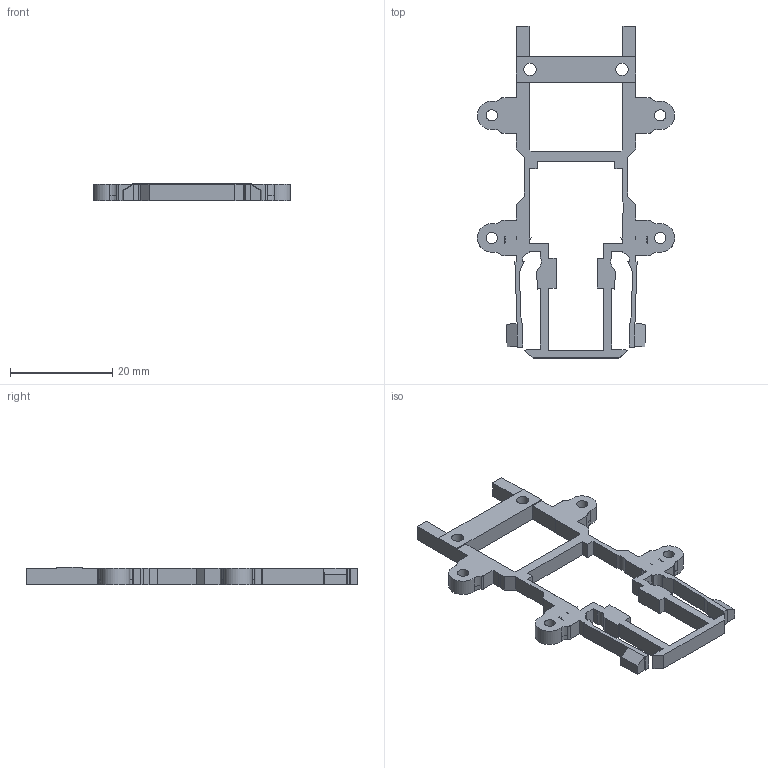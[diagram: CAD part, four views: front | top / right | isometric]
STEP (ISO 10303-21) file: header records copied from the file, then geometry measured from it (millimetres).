
FILE_DESCRIPTION(('Open CASCADE Model'),'2;1');
FILE_NAME('Open CASCADE Shape Model','2026-10-12T19:49:20',('Author'),( 'Open CASCADE'),'Open CASCADE STEP processor 7.9','Open CASCADE 7.9' ,'Unknown');
FILE_SCHEMA(('AUTOMOTIVE_DESIGN { 1 0 10303 214 1 1 1 1 }'));
Length unit declared in the file: millimetre
Products named in the file (1): Open CASCADE STEP translator 7.9 2
Bounding box: 38.6 x 65 x 3.4 mm (x, y, z)
Volume: 2094.7 mm3; surface area: 3115.1 mm2
Topology: 1 solids, 1 shells, 194 faces, 559 edges, 372 vertices
Faces by surface type: plane 144, cylinder 34, bspline 8, extrusion 8
Full cylindrical faces by diameter (mm): 2.2 x4, 2.4 x2, 4.1 x2
Entity records: 14705 total; most frequent: CARTESIAN_POINT 3648, DIRECTION 1984, VECTOR 1439, LINE 1431, ORIENTED_EDGE 1118, PCURVE 1118, DEFINITIONAL_REPRESENTATION 1118, EDGE_CURVE 559
